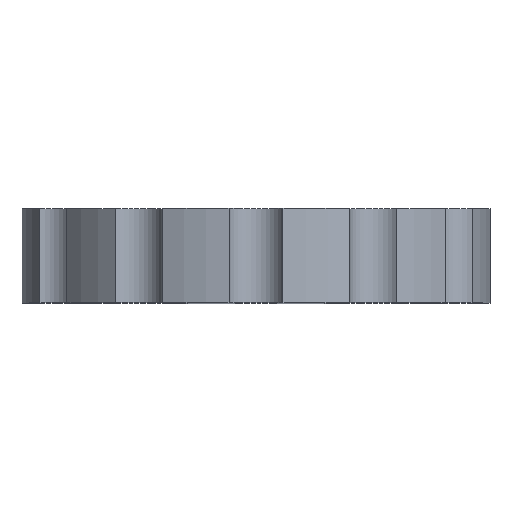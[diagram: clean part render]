
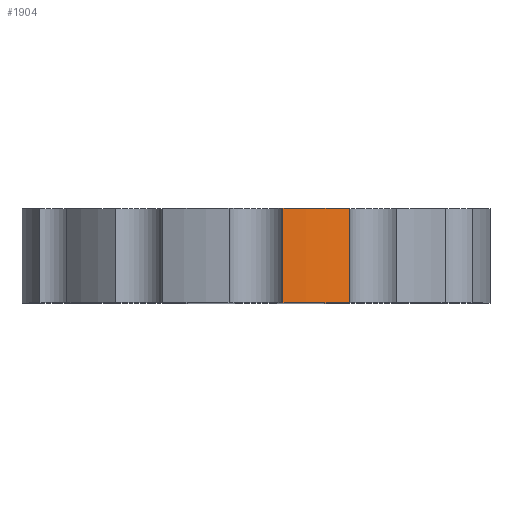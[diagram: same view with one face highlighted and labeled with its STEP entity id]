
A CAD part, top view. The second image highlights one B-rep face of the part: STEP entity #1904.
In plain terms, the highlighted cylindrical face has radius 13 mm (diameter 26 mm), a partial arc.
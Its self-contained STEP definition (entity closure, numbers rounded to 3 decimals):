
#45 = PLANE('',#46);
#46 = AXIS2_PLACEMENT_3D('',#47,#48,#49);
#47 = CARTESIAN_POINT('',(0.,51.8,0.)
  );
#48 = DIRECTION('',(0.,1.,0.));
#49 = DIRECTION('',(0.,-0.,1.));
#100 = PLANE('',#101);
#101 = AXIS2_PLACEMENT_3D('',#102,#103,#104);
#102 = CARTESIAN_POINT('',(0.,57.,0.)
  );
#103 = DIRECTION('',(0.,1.,0.));
#104 = DIRECTION('',(0.,-0.,1.));
#200 = VERTEX_POINT('',#201);
#201 = CARTESIAN_POINT('',(1.489,51.8,12.914));
#220 = CYLINDRICAL_SURFACE('',#221,1.6);
#221 = AXIS2_PLACEMENT_3D('',#222,#223,#224);
#222 = CARTESIAN_POINT('',(0.,51.,13.5));
#223 = DIRECTION('',(0.,-1.,-0.));
#224 = DIRECTION('',(1.,0.,0.));
#232 = EDGE_CURVE('',#200,#233,#235,.T.);
#233 = VERTEX_POINT('',#234);
#234 = CARTESIAN_POINT('',(5.168,51.8,11.929));
#235 = SURFACE_CURVE('',#236,(#241,#248),.PCURVE_S1.);
#236 = CIRCLE('',#237,13.);
#237 = AXIS2_PLACEMENT_3D('',#238,#239,#240);
#238 = CARTESIAN_POINT('',(0.,51.8,0.));
#239 = DIRECTION('',(-0.,1.,0.));
#240 = DIRECTION('',(1.,0.,0.));
#241 = PCURVE('',#45,#242);
#242 = DEFINITIONAL_REPRESENTATION('',(#243),#247);
#243 = CIRCLE('',#244,13.);
#244 = AXIS2_PLACEMENT_2D('',#245,#246);
#245 = CARTESIAN_POINT('',(0.,0.));
#246 = DIRECTION('',(0.,1.));
#247 = ( GEOMETRIC_REPRESENTATION_CONTEXT(2) 
PARAMETRIC_REPRESENTATION_CONTEXT() REPRESENTATION_CONTEXT('2D SPACE',''
  ) );
#248 = PCURVE('',#249,#254);
#249 = CYLINDRICAL_SURFACE('',#250,13.);
#250 = AXIS2_PLACEMENT_3D('',#251,#252,#253);
#251 = CARTESIAN_POINT('',(0.,51.8,0.));
#252 = DIRECTION('',(0.,-1.,-0.));
#253 = DIRECTION('',(1.,0.,0.));
#254 = DEFINITIONAL_REPRESENTATION('',(#255),#259);
#255 = LINE('',#256,#257);
#256 = CARTESIAN_POINT('',(-0.,0.));
#257 = VECTOR('',#258,1.);
#258 = DIRECTION('',(-1.,0.));
#259 = ( GEOMETRIC_REPRESENTATION_CONTEXT(2) 
PARAMETRIC_REPRESENTATION_CONTEXT() REPRESENTATION_CONTEXT('2D SPACE',''
  ) );
#282 = CYLINDRICAL_SURFACE('',#283,1.6);
#283 = AXIS2_PLACEMENT_3D('',#284,#285,#286);
#284 = CARTESIAN_POINT('',(6.75,51.,11.691));
#285 = DIRECTION('',(0.,-1.,-0.));
#286 = DIRECTION('',(1.,0.,0.));
#929 = VERTEX_POINT('',#930);
#930 = CARTESIAN_POINT('',(1.489,57.,12.914));
#956 = EDGE_CURVE('',#929,#957,#959,.T.);
#957 = VERTEX_POINT('',#958);
#958 = CARTESIAN_POINT('',(5.168,57.,11.929));
#959 = SURFACE_CURVE('',#960,(#965,#972),.PCURVE_S1.);
#960 = CIRCLE('',#961,13.);
#961 = AXIS2_PLACEMENT_3D('',#962,#963,#964);
#962 = CARTESIAN_POINT('',(0.,57.,0.));
#963 = DIRECTION('',(-0.,1.,0.));
#964 = DIRECTION('',(1.,0.,0.));
#965 = PCURVE('',#100,#966);
#966 = DEFINITIONAL_REPRESENTATION('',(#967),#971);
#967 = CIRCLE('',#968,13.);
#968 = AXIS2_PLACEMENT_2D('',#969,#970);
#969 = CARTESIAN_POINT('',(0.,0.));
#970 = DIRECTION('',(0.,1.));
#971 = ( GEOMETRIC_REPRESENTATION_CONTEXT(2) 
PARAMETRIC_REPRESENTATION_CONTEXT() REPRESENTATION_CONTEXT('2D SPACE',''
  ) );
#972 = PCURVE('',#249,#973);
#973 = DEFINITIONAL_REPRESENTATION('',(#974),#978);
#974 = LINE('',#975,#976);
#975 = CARTESIAN_POINT('',(-0.,-5.2));
#976 = VECTOR('',#977,1.);
#977 = DIRECTION('',(-1.,0.));
#978 = ( GEOMETRIC_REPRESENTATION_CONTEXT(2) 
PARAMETRIC_REPRESENTATION_CONTEXT() REPRESENTATION_CONTEXT('2D SPACE',''
  ) );
#1885 = EDGE_CURVE('',#957,#233,#1886,.T.);
#1886 = SURFACE_CURVE('',#1887,(#1891,#1897),.PCURVE_S1.);
#1887 = LINE('',#1888,#1889);
#1888 = CARTESIAN_POINT('',(5.168,51.8,11.929));
#1889 = VECTOR('',#1890,1.);
#1890 = DIRECTION('',(0.,-1.,-0.));
#1891 = PCURVE('',#282,#1892);
#1892 = DEFINITIONAL_REPRESENTATION('',(#1893),#1896);
#1893 = B_SPLINE_CURVE_WITH_KNOTS('',1,(#1894,#1895),.UNSPECIFIED.,.F.,
  .F.,(2,2),(-5.2,0.),.PIECEWISE_BEZIER_KNOTS.);
#1894 = CARTESIAN_POINT('',(-3.291,-6.));
#1895 = CARTESIAN_POINT('',(-3.291,-0.8));
#1896 = ( GEOMETRIC_REPRESENTATION_CONTEXT(2) 
PARAMETRIC_REPRESENTATION_CONTEXT() REPRESENTATION_CONTEXT('2D SPACE',''
  ) );
#1897 = PCURVE('',#249,#1898);
#1898 = DEFINITIONAL_REPRESENTATION('',(#1899),#1902);
#1899 = B_SPLINE_CURVE_WITH_KNOTS('',1,(#1900,#1901),.UNSPECIFIED.,.F.,
  .F.,(2,2),(-5.2,0.),.PIECEWISE_BEZIER_KNOTS.);
#1900 = CARTESIAN_POINT('',(-5.121,-5.2));
#1901 = CARTESIAN_POINT('',(-5.121,0.));
#1902 = ( GEOMETRIC_REPRESENTATION_CONTEXT(2) 
PARAMETRIC_REPRESENTATION_CONTEXT() REPRESENTATION_CONTEXT('2D SPACE',''
  ) );
#1904 = ADVANCED_FACE('',(#1905),#249,.T.);
#1905 = FACE_BOUND('',#1906,.F.);
#1906 = EDGE_LOOP('',(#1907,#1908,#1927,#1928));
#1907 = ORIENTED_EDGE('',*,*,#232,.F.);
#1908 = ORIENTED_EDGE('',*,*,#1909,.F.);
#1909 = EDGE_CURVE('',#929,#200,#1910,.T.);
#1910 = SURFACE_CURVE('',#1911,(#1915,#1921),.PCURVE_S1.);
#1911 = LINE('',#1912,#1913);
#1912 = CARTESIAN_POINT('',(1.489,51.8,12.914));
#1913 = VECTOR('',#1914,1.);
#1914 = DIRECTION('',(0.,-1.,-0.));
#1915 = PCURVE('',#249,#1916);
#1916 = DEFINITIONAL_REPRESENTATION('',(#1917),#1920);
#1917 = B_SPLINE_CURVE_WITH_KNOTS('',1,(#1918,#1919),.UNSPECIFIED.,.F.,
  .F.,(2,2),(-5.2,0.),.PIECEWISE_BEZIER_KNOTS.);
#1918 = CARTESIAN_POINT('',(-4.827,-5.2));
#1919 = CARTESIAN_POINT('',(-4.827,0.));
#1920 = ( GEOMETRIC_REPRESENTATION_CONTEXT(2) 
PARAMETRIC_REPRESENTATION_CONTEXT() REPRESENTATION_CONTEXT('2D SPACE',''
  ) );
#1921 = PCURVE('',#220,#1922);
#1922 = DEFINITIONAL_REPRESENTATION('',(#1923),#1926);
#1923 = B_SPLINE_CURVE_WITH_KNOTS('',1,(#1924,#1925),.UNSPECIFIED.,.F.,
  .F.,(2,2),(-5.2,0.),.PIECEWISE_BEZIER_KNOTS.);
#1924 = CARTESIAN_POINT('',(-0.375,-6.));
#1925 = CARTESIAN_POINT('',(-0.375,-0.8));
#1926 = ( GEOMETRIC_REPRESENTATION_CONTEXT(2) 
PARAMETRIC_REPRESENTATION_CONTEXT() REPRESENTATION_CONTEXT('2D SPACE',''
  ) );
#1927 = ORIENTED_EDGE('',*,*,#956,.T.);
#1928 = ORIENTED_EDGE('',*,*,#1885,.T.);
